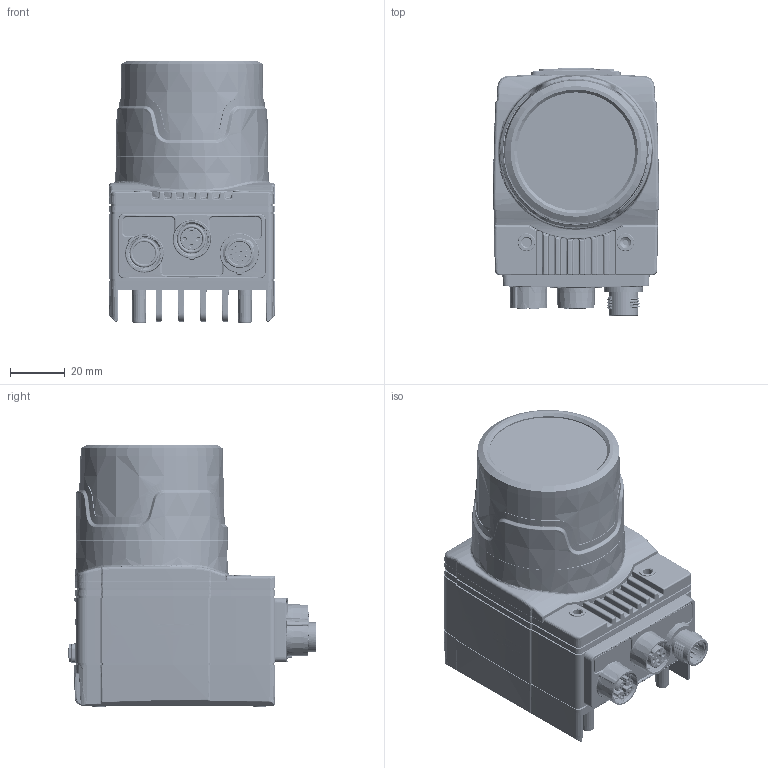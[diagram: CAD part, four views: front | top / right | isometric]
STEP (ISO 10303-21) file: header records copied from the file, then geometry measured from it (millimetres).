
FILE_DESCRIPTION (( 'STEP AP214' ), '1' );
FILE_NAME ('IS016-10_3-21-18.STEP', '2018-03-30T18:20:22', ( 'Cognoid' ), ( 'Microsoft' ), 'SwSTEP 2.0', 'SolidWorks 2017', '' );
FILE_SCHEMA (( 'AUTOMOTIVE_DESIGN' ));
Length unit declared in the file: millimetre
Products named in the file (1): IS016-10_3-21-18
Bounding box: 60.5 x 90.39 x 95.3 mm (x, y, z)
Volume: 190211.3 mm3; surface area: 79230.4 mm2
Topology: 8 solids, 56 shells, 6032 faces, 15777 edges, 9994 vertices
Faces by surface type: plane 2128, cylinder 1664, bspline 1483, cone 393, torus 296, sphere 68
Entity records: 325628 total; most frequent: CARTESIAN_POINT 143676, ORIENTED_EDGE 31326, DIRECTION 24461, EDGE_CURVE 15663, VERTEX_POINT 9994, AXIS2_PLACEMENT_3D 8790, VECTOR 6881, LINE 6881
